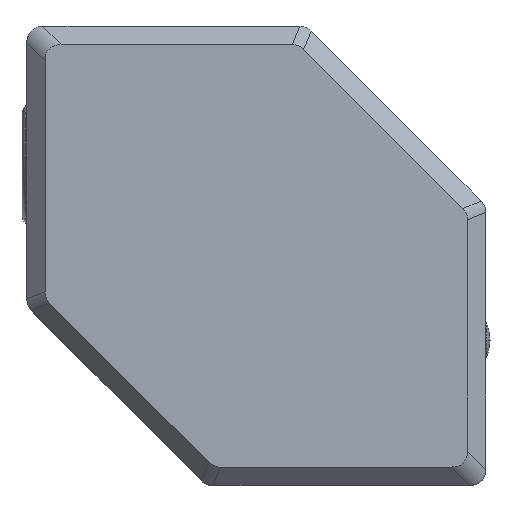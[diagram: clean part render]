
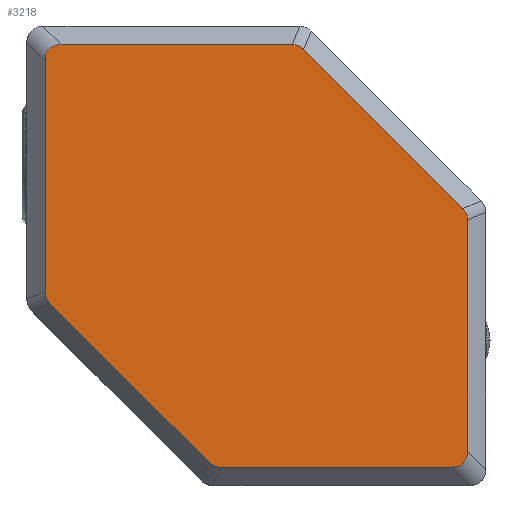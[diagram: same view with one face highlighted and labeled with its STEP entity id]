
A CAD part, top view. The second image highlights one B-rep face of the part: STEP entity #3218.
In plain terms, the highlighted planar face has unit normal (0, 0, 1).
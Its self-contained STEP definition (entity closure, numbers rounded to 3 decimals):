
#1 = EDGE_LOOP ( 'NONE', ( #10258, #9306, #9847, #4921, #3043, #3235, #4140, #9049, #6175, #4809, #10378, #7408 ) ) ;
#64 = CARTESIAN_POINT ( 'NONE',  ( -46.094, 50.697, 142.5 ) ) ;
#657 = VERTEX_POINT ( 'NONE', #5061 ) ;
#761 = CARTESIAN_POINT ( 'NONE',  ( -12.845, -41.949, 142.5 ) ) ;
#817 = LINE ( 'NONE', #4079, #9282 ) ;
#903 = VERTEX_POINT ( 'NONE', #8043 ) ;
#1000 = CARTESIAN_POINT ( 'NONE',  ( -46.094, 50.697, 142.5 ) ) ;
#1086 = AXIS2_PLACEMENT_3D ( 'NONE', #6795, #5924, #10044 ) ;
#1111 = EDGE_CURVE ( 'NONE', #9045, #4772, #2057, .T. ) ;
#1195 = EDGE_CURVE ( 'NONE', #7694, #8939, #7876, .T. ) ;
#1357 = LINE ( 'NONE', #3817, #2941 ) ;
#1371 = CARTESIAN_POINT ( 'NONE',  ( 5.731, 50.697, 142.5 ) ) ;
#1720 =( BOUNDED_CURVE ( )  B_SPLINE_CURVE ( 3, ( #7198, #2312, #9096, #7308 ),
 .UNSPECIFIED., .F., .T. ) 
 B_SPLINE_CURVE_WITH_KNOTS ( ( 4, 4 ),
 ( 6.009, 6.557 ),
 .UNSPECIFIED. ) 
 CURVE ( )  GEOMETRIC_REPRESENTATION_ITEM ( )  RATIONAL_B_SPLINE_CURVE ( ( 1., 0.975, 0.975, 1. ) ) 
 REPRESENTATION_ITEM ( '' )  );
#1869 = CARTESIAN_POINT ( 'NONE',  ( 42.076, -42.303, 142.5 ) ) ;
#1925 = EDGE_CURVE ( 'NONE', #8939, #2177, #5516, .T. ) ;
#2019 = CARTESIAN_POINT ( 'NONE',  ( 43.37, -38.767, 142.5 ) ) ;
#2042 = EDGE_CURVE ( 'NONE', #2758, #5725, #3078, .T. ) ;
#2056 = EDGE_CURVE ( 'NONE', #6117, #657, #1720, .T. ) ;
#2057 =( BOUNDED_CURVE ( )  B_SPLINE_CURVE ( 3, ( #1000, #7495, #8351, #5652 ),
 .UNSPECIFIED., .F., .T. ) 
 B_SPLINE_CURVE_WITH_KNOTS ( ( 4, 4 ),
 ( 2.618, 3.665 ),
 .UNSPECIFIED. ) 
 CURVE ( )  GEOMETRIC_REPRESENTATION_ITEM ( )  RATIONAL_B_SPLINE_CURVE ( ( 1., 0.911, 0.911, 1. ) ) 
 REPRESENTATION_ITEM ( '' )  );
#2177 = VERTEX_POINT ( 'NONE', #3075 ) ;
#2300 = CARTESIAN_POINT ( 'NONE',  ( -78.06, 23.266, 142.5 ) ) ;
#2312 = CARTESIAN_POINT ( 'NONE',  ( -49.63, -4.664, 142.5 ) ) ;
#2352 = LINE ( 'NONE', #2300, #2972 ) ;
#2357 = CARTESIAN_POINT ( 'NONE',  ( -11.027, -42.303, 142.5 ) ) ;
#2380 = EDGE_CURVE ( 'NONE', #7694, #5725, #4302, .T. ) ;
#2417 = VECTOR ( 'NONE', #10182, 1000. ) ;
#2617 = CARTESIAN_POINT ( 'NONE',  ( 39.835, -42.303, 142.5 ) ) ;
#2754 = CARTESIAN_POINT ( 'NONE',  ( 43.37, -41.009, 142.5 ) ) ;
#2758 = VERTEX_POINT ( 'NONE', #6101 ) ;
#2941 = VECTOR ( 'NONE', #9509, 1000. ) ;
#2972 = VECTOR ( 'NONE', #5450, 1000. ) ;
#3043 = ORIENTED_EDGE ( 'NONE', *, *, #3535, .F. ) ;
#3075 = CARTESIAN_POINT ( 'NONE',  ( 43.37, 12.094, 142.5 ) ) ;
#3078 =( BOUNDED_CURVE ( )  B_SPLINE_CURVE ( 3, ( #7997, #761, #3956, #3908 ),
 .UNSPECIFIED., .F., .T. ) 
 B_SPLINE_CURVE_WITH_KNOTS ( ( 4, 4 ),
 ( 2.868, 3.416 ),
 .UNSPECIFIED. ) 
 CURVE ( )  GEOMETRIC_REPRESENTATION_ITEM ( )  RATIONAL_B_SPLINE_CURVE ( ( 1., 0.975, 0.975, 1. ) ) 
 REPRESENTATION_ITEM ( '' )  );
#3218 = ADVANCED_FACE ( 'NONE', ( #5966 ), #4266, .T. ) ;
#3235 = ORIENTED_EDGE ( 'NONE', *, *, #2042, .T. ) ;
#3503 = DIRECTION ( 'NONE',  ( -1., 0., 0. ) ) ;
#3535 = EDGE_CURVE ( 'NONE', #2758, #657, #2352, .T. ) ;
#3594 = CARTESIAN_POINT ( 'NONE',  ( 43.016, 13.912, 142.5 ) ) ;
#3817 = CARTESIAN_POINT ( 'NONE',  ( -49.63, -46.303, 142.5 ) ) ;
#3908 = CARTESIAN_POINT ( 'NONE',  ( -11.027, -42.303, 142.5 ) ) ;
#3935 = CARTESIAN_POINT ( 'NONE',  ( 7.267, 49.661, 142.5 ) ) ;
#3956 = CARTESIAN_POINT ( 'NONE',  ( -11.99, -42.303, 142.5 ) ) ;
#4079 = CARTESIAN_POINT ( 'NONE',  ( -22.199, 79.128, 142.5 ) ) ;
#4140 = ORIENTED_EDGE ( 'NONE', *, *, #2380, .F. ) ;
#4241 =( BOUNDED_CURVE ( )  B_SPLINE_CURVE ( 3, ( #3935, #5595, #1371, #7226 ),
 .UNSPECIFIED., .F., .T. ) 
 B_SPLINE_CURVE_WITH_KNOTS ( ( 4, 4 ),
 ( 2.868, 3.416 ),
 .UNSPECIFIED. ) 
 CURVE ( )  GEOMETRIC_REPRESENTATION_ITEM ( )  RATIONAL_B_SPLINE_CURVE ( ( 1., 0.975, 0.975, 1. ) ) 
 REPRESENTATION_ITEM ( '' )  );
#4266 = PLANE ( 'NONE',  #1086 ) ;
#4302 = LINE ( 'NONE', #10038, #7411 ) ;
#4772 = VERTEX_POINT ( 'NONE', #7511 ) ;
#4809 = ORIENTED_EDGE ( 'NONE', *, *, #10458, .T. ) ;
#4921 = ORIENTED_EDGE ( 'NONE', *, *, #2056, .T. ) ;
#5061 = CARTESIAN_POINT ( 'NONE',  ( -48.594, -6.2, 142.5 ) ) ;
#5312 = CARTESIAN_POINT ( 'NONE',  ( 43.37, 13.058, 142.5 ) ) ;
#5371 = CARTESIAN_POINT ( 'NONE',  ( 43.37, 12.094, 142.5 ) ) ;
#5449 = LINE ( 'NONE', #8032, #6209 ) ;
#5450 = DIRECTION ( 'NONE',  ( -0.707, 0.707, 0. ) ) ;
#5462 = CARTESIAN_POINT ( 'NONE',  ( 43.37, -46.303, 142.5 ) ) ;
#5516 = LINE ( 'NONE', #5462, #2417 ) ;
#5595 = CARTESIAN_POINT ( 'NONE',  ( 6.586, 50.343, 142.5 ) ) ;
#5652 = CARTESIAN_POINT ( 'NONE',  ( -49.63, 47.161, 142.5 ) ) ;
#5725 = VERTEX_POINT ( 'NONE', #2357 ) ;
#5924 = DIRECTION ( 'NONE',  ( 0., 0., 1. ) ) ;
#5966 = FACE_OUTER_BOUND ( 'NONE', #1, .T. ) ;
#6101 = CARTESIAN_POINT ( 'NONE',  ( -13.527, -41.267, 142.5 ) ) ;
#6117 = VERTEX_POINT ( 'NONE', #10352 ) ;
#6123 = CARTESIAN_POINT ( 'NONE',  ( 39.835, -42.303, 142.5 ) ) ;
#6175 = ORIENTED_EDGE ( 'NONE', *, *, #1925, .T. ) ;
#6209 = VECTOR ( 'NONE', #7922, 1000. ) ;
#6638 = VERTEX_POINT ( 'NONE', #8851 ) ;
#6795 = CARTESIAN_POINT ( 'NONE',  ( -50.13, 51.197, 142.5 ) ) ;
#6966 = EDGE_CURVE ( 'NONE', #903, #6638, #4241, .T. ) ;
#7198 = CARTESIAN_POINT ( 'NONE',  ( -49.63, -3.7, 142.5 ) ) ;
#7226 = CARTESIAN_POINT ( 'NONE',  ( 4.767, 50.697, 142.5 ) ) ;
#7298 = EDGE_CURVE ( 'NONE', #6117, #4772, #1357, .T. ) ;
#7308 = CARTESIAN_POINT ( 'NONE',  ( -48.594, -6.2, 142.5 ) ) ;
#7363 = EDGE_CURVE ( 'NONE', #903, #10369, #817, .T. ) ;
#7408 = ORIENTED_EDGE ( 'NONE', *, *, #6966, .T. ) ;
#7411 = VECTOR ( 'NONE', #3503, 1000. ) ;
#7446 = CARTESIAN_POINT ( 'NONE',  ( 42.335, 14.594, 142.5 ) ) ;
#7495 = CARTESIAN_POINT ( 'NONE',  ( -48.335, 50.697, 142.5 ) ) ;
#7511 = CARTESIAN_POINT ( 'NONE',  ( -49.63, 47.161, 142.5 ) ) ;
#7694 = VERTEX_POINT ( 'NONE', #2617 ) ;
#7780 = CARTESIAN_POINT ( 'NONE',  ( 43.37, -38.767, 142.5 ) ) ;
#7876 =( BOUNDED_CURVE ( )  B_SPLINE_CURVE ( 3, ( #6123, #1869, #2754, #2019 ),
 .UNSPECIFIED., .F., .T. ) 
 B_SPLINE_CURVE_WITH_KNOTS ( ( 4, 4 ),
 ( 2.618, 3.665 ),
 .UNSPECIFIED. ) 
 CURVE ( )  GEOMETRIC_REPRESENTATION_ITEM ( )  RATIONAL_B_SPLINE_CURVE ( ( 1., 0.911, 0.911, 1. ) ) 
 REPRESENTATION_ITEM ( '' )  );
#7922 = DIRECTION ( 'NONE',  ( -1., 0., 0. ) ) ;
#7979 = EDGE_CURVE ( 'NONE', #6638, #9045, #5449, .T. ) ;
#7997 = CARTESIAN_POINT ( 'NONE',  ( -13.527, -41.267, 142.5 ) ) ;
#8032 = CARTESIAN_POINT ( 'NONE',  ( 47.37, 50.697, 142.5 ) ) ;
#8043 = CARTESIAN_POINT ( 'NONE',  ( 7.267, 49.661, 142.5 ) ) ;
#8351 = CARTESIAN_POINT ( 'NONE',  ( -49.63, 49.403, 142.5 ) ) ;
#8851 = CARTESIAN_POINT ( 'NONE',  ( 4.767, 50.697, 142.5 ) ) ;
#8939 = VERTEX_POINT ( 'NONE', #7780 ) ;
#9045 = VERTEX_POINT ( 'NONE', #64 ) ;
#9049 = ORIENTED_EDGE ( 'NONE', *, *, #1195, .T. ) ;
#9096 = CARTESIAN_POINT ( 'NONE',  ( -49.276, -5.518, 142.5 ) ) ;
#9280 = CARTESIAN_POINT ( 'NONE',  ( 42.335, 14.594, 142.5 ) ) ;
#9282 = VECTOR ( 'NONE', #9913, 1000. ) ;
#9306 = ORIENTED_EDGE ( 'NONE', *, *, #1111, .T. ) ;
#9509 = DIRECTION ( 'NONE',  ( 0., 1., 0. ) ) ;
#9847 = ORIENTED_EDGE ( 'NONE', *, *, #7298, .F. ) ;
#9913 = DIRECTION ( 'NONE',  ( 0.707, -0.707, 0. ) ) ;
#10038 = CARTESIAN_POINT ( 'NONE',  ( 47.37, -42.303, 142.5 ) ) ;
#10044 = DIRECTION ( 'NONE',  ( 1., 0., 0. ) ) ;
#10182 = DIRECTION ( 'NONE',  ( 0., 1., 0. ) ) ;
#10258 = ORIENTED_EDGE ( 'NONE', *, *, #7979, .T. ) ;
#10336 =( BOUNDED_CURVE ( )  B_SPLINE_CURVE ( 3, ( #5371, #5312, #3594, #9280 ),
 .UNSPECIFIED., .F., .T. ) 
 B_SPLINE_CURVE_WITH_KNOTS ( ( 4, 4 ),
 ( 6.009, 6.557 ),
 .UNSPECIFIED. ) 
 CURVE ( )  GEOMETRIC_REPRESENTATION_ITEM ( )  RATIONAL_B_SPLINE_CURVE ( ( 1., 0.975, 0.975, 1. ) ) 
 REPRESENTATION_ITEM ( '' )  );
#10352 = CARTESIAN_POINT ( 'NONE',  ( -49.63, -3.7, 142.5 ) ) ;
#10369 = VERTEX_POINT ( 'NONE', #7446 ) ;
#10378 = ORIENTED_EDGE ( 'NONE', *, *, #7363, .F. ) ;
#10458 = EDGE_CURVE ( 'NONE', #2177, #10369, #10336, .T. ) ;
